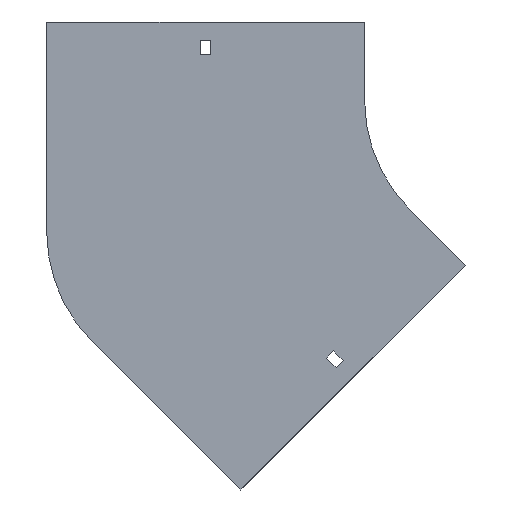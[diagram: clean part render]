
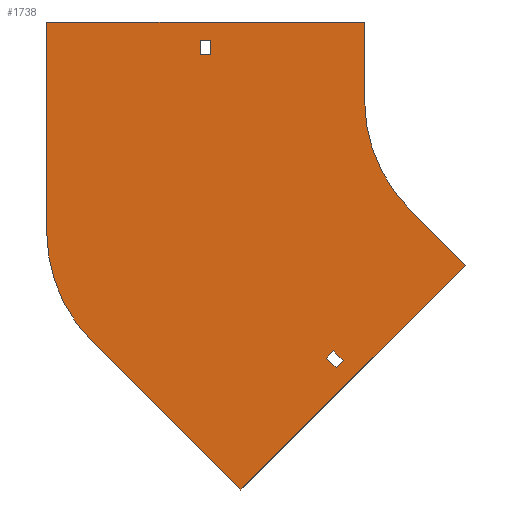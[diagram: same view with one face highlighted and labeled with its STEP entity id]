
A CAD part, front view. The second image highlights one B-rep face of the part: STEP entity #1738.
In plain terms, the highlighted planar face has unit normal (0, -1, 0).
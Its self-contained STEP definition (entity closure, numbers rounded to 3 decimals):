
#2 = VERTEX_POINT ( 'NONE', #57 ) ;
#14 = VERTEX_POINT ( 'NONE', #1880 ) ;
#15 = LINE ( 'NONE', #1769, #1334 ) ;
#18 = DIRECTION ( 'NONE',  ( 0., 0., 1. ) ) ;
#19 = ORIENTED_EDGE ( 'NONE', *, *, #1109, .F. ) ;
#26 = CIRCLE ( 'NONE', #219, 100. ) ;
#57 = CARTESIAN_POINT ( 'NONE',  ( -100., 0., 0. ) ) ;
#61 = LINE ( 'NONE', #657, #739 ) ;
#68 = DIRECTION ( 'NONE',  ( 1., 0., 0. ) ) ;
#88 = VECTOR ( 'NONE', #111, 1000. ) ;
#89 = VERTEX_POINT ( 'NONE', #578 ) ;
#98 = ORIENTED_EDGE ( 'NONE', *, *, #598, .F. ) ;
#111 = DIRECTION ( 'NONE',  ( -0.707, 0., -0.707 ) ) ;
#140 = CARTESIAN_POINT ( 'NONE',  ( -198.75, 0., 29. ) ) ;
#170 = CARTESIAN_POINT ( 'NONE',  ( -124.628, 0., -165.64 ) ) ;
#172 = LINE ( 'NONE', #1364, #1853 ) ;
#197 = LINE ( 'NONE', #643, #1376 ) ;
#214 = CARTESIAN_POINT ( 'NONE',  ( 0., 0., 0. ) ) ;
#219 = AXIS2_PLACEMENT_3D ( 'NONE', #214, #560, #1910 ) ;
#221 = AXIS2_PLACEMENT_3D ( 'NONE', #1169, #1770, #1149 ) ;
#224 = CARTESIAN_POINT ( 'NONE',  ( -205.25, 0., 38. ) ) ;
#226 = CARTESIAN_POINT ( 'NONE',  ( -113.667, 0., -167.408 ) ) ;
#243 = AXIS2_PLACEMENT_3D ( 'NONE', #1894, #546, #1306 ) ;
#259 = CARTESIAN_POINT ( 'NONE',  ( -70.711, 0., -70.711 ) ) ;
#291 = VERTEX_POINT ( 'NONE', #140 ) ;
#301 = VERTEX_POINT ( 'NONE', #226 ) ;
#310 = ORIENTED_EDGE ( 'NONE', *, *, #813, .T. ) ;
#326 = LINE ( 'NONE', #1645, #1434 ) ;
#367 = LINE ( 'NONE', #1271, #399 ) ;
#386 = EDGE_CURVE ( 'NONE', #14, #1166, #1380, .T. ) ;
#399 = VECTOR ( 'NONE', #68, 1000. ) ;
#433 = EDGE_CURVE ( 'NONE', #691, #2, #1401, .T. ) ;
#460 = VERTEX_POINT ( 'NONE', #566 ) ;
#463 = VECTOR ( 'NONE', #713, 1000. ) ;
#520 = DIRECTION ( 'NONE',  ( 0., 0., 1. ) ) ;
#533 = DIRECTION ( 'NONE',  ( -0.707, 0., 0.707 ) ) ;
#542 = DIRECTION ( 'NONE',  ( -0.707, 0., -0.707 ) ) ;
#546 = DIRECTION ( 'NONE',  ( 0., 1., 0. ) ) ;
#554 = EDGE_CURVE ( 'NONE', #1353, #460, #1367, .T. ) ;
#555 = PLANE ( 'NONE',  #221 ) ;
#560 = DIRECTION ( 'NONE',  ( 0., -1., 0. ) ) ;
#566 = CARTESIAN_POINT ( 'NONE',  ( -304., 0., -84.5 ) ) ;
#567 = FACE_BOUND ( 'NONE', #608, .T. ) ;
#578 = CARTESIAN_POINT ( 'NONE',  ( -118.264, 0., -172.004 ) ) ;
#581 = EDGE_LOOP ( 'NONE', ( #764, #1373, #800, #19, #850, #1594, #1020, #1518 ) ) ;
#598 = EDGE_CURVE ( 'NONE', #1062, #89, #15, .T. ) ;
#608 = EDGE_LOOP ( 'NONE', ( #949, #1447, #1123, #310 ) ) ;
#643 = CARTESIAN_POINT ( 'NONE',  ( -70.711, 0., -70.711 ) ) ;
#646 = CARTESIAN_POINT ( 'NONE',  ( -205.25, 0., 29. ) ) ;
#657 = CARTESIAN_POINT ( 'NONE',  ( -205.25, 0., 29. ) ) ;
#659 = DIRECTION ( 'NONE',  ( 0., 0., -1. ) ) ;
#691 = VERTEX_POINT ( 'NONE', #883 ) ;
#693 = LINE ( 'NONE', #1134, #990 ) ;
#713 = DIRECTION ( 'NONE',  ( 0., 0., -1. ) ) ;
#721 = VERTEX_POINT ( 'NONE', #1643 ) ;
#739 = VECTOR ( 'NONE', #1534, 1000. ) ;
#746 = DIRECTION ( 'NONE',  ( 0.707, 0., -0.707 ) ) ;
#764 = ORIENTED_EDGE ( 'NONE', *, *, #1083, .F. ) ;
#798 = LINE ( 'NONE', #967, #867 ) ;
#800 = ORIENTED_EDGE ( 'NONE', *, *, #554, .F. ) ;
#813 = EDGE_CURVE ( 'NONE', #291, #14, #61, .T. ) ;
#850 = ORIENTED_EDGE ( 'NONE', *, *, #1285, .F. ) ;
#866 = VECTOR ( 'NONE', #533, 1000. ) ;
#867 = VECTOR ( 'NONE', #1122, 1000. ) ;
#883 = CARTESIAN_POINT ( 'NONE',  ( -100., 0., 50. ) ) ;
#907 = CARTESIAN_POINT ( 'NONE',  ( -120.031, 0., -161.044 ) ) ;
#943 = DIRECTION ( 'NONE',  ( 0.707, 0., -0.707 ) ) ;
#949 = ORIENTED_EDGE ( 'NONE', *, *, #386, .T. ) ;
#959 = CARTESIAN_POINT ( 'NONE',  ( -179.605, 0., -250.316 ) ) ;
#967 = CARTESIAN_POINT ( 'NONE',  ( -205.25, 0., 38. ) ) ;
#978 = VERTEX_POINT ( 'NONE', #1827 ) ;
#990 = VECTOR ( 'NONE', #542, 1000. ) ;
#1007 = CARTESIAN_POINT ( 'NONE',  ( -124.628, 0., -165.64 ) ) ;
#1020 = ORIENTED_EDGE ( 'NONE', *, *, #1217, .F. ) ;
#1062 = VERTEX_POINT ( 'NONE', #170 ) ;
#1083 = EDGE_CURVE ( 'NONE', #978, #691, #367, .T. ) ;
#1106 = CARTESIAN_POINT ( 'NONE',  ( -179.605, 0., -250.316 ) ) ;
#1109 = EDGE_CURVE ( 'NONE', #1155, #1353, #1422, .T. ) ;
#1111 = LINE ( 'NONE', #1287, #1147 ) ;
#1122 = DIRECTION ( 'NONE',  ( 1., 0., 0. ) ) ;
#1123 = ORIENTED_EDGE ( 'NONE', *, *, #1264, .T. ) ;
#1124 = ORIENTED_EDGE ( 'NONE', *, *, #1307, .F. ) ;
#1134 = CARTESIAN_POINT ( 'NONE',  ( -35.355, 0., -106.066 ) ) ;
#1143 = CARTESIAN_POINT ( 'NONE',  ( -198.75, 0., 38. ) ) ;
#1147 = VECTOR ( 'NONE', #1278, 1000. ) ;
#1149 = DIRECTION ( 'NONE',  ( 0., 0., -1. ) ) ;
#1155 = VERTEX_POINT ( 'NONE', #1106 ) ;
#1166 = VERTEX_POINT ( 'NONE', #224 ) ;
#1169 = CARTESIAN_POINT ( 'NONE',  ( 0., 0., 0. ) ) ;
#1217 = EDGE_CURVE ( 'NONE', #2, #1241, #26, .T. ) ;
#1241 = VERTEX_POINT ( 'NONE', #259 ) ;
#1247 = VERTEX_POINT ( 'NONE', #1143 ) ;
#1264 = EDGE_CURVE ( 'NONE', #1247, #291, #1311, .T. ) ;
#1271 = CARTESIAN_POINT ( 'NONE',  ( -304., 0., 50. ) ) ;
#1275 = DIRECTION ( 'NONE',  ( 0.707, 0., 0.707 ) ) ;
#1278 = DIRECTION ( 'NONE',  ( -0.707, 0., 0.707 ) ) ;
#1285 = EDGE_CURVE ( 'NONE', #721, #1155, #693, .T. ) ;
#1287 = CARTESIAN_POINT ( 'NONE',  ( -120.031, 0., -161.044 ) ) ;
#1306 = DIRECTION ( 'NONE',  ( 0., 0., 1. ) ) ;
#1307 = EDGE_CURVE ( 'NONE', #1916, #1062, #1734, .T. ) ;
#1311 = LINE ( 'NONE', #1930, #463 ) ;
#1334 = VECTOR ( 'NONE', #746, 1000. ) ;
#1342 = ORIENTED_EDGE ( 'NONE', *, *, #1931, .F. ) ;
#1353 = VERTEX_POINT ( 'NONE', #1941 ) ;
#1364 = CARTESIAN_POINT ( 'NONE',  ( -118.264, 0., -172.004 ) ) ;
#1367 = CIRCLE ( 'NONE', #243, 100. ) ;
#1373 = ORIENTED_EDGE ( 'NONE', *, *, #1424, .F. ) ;
#1376 = VECTOR ( 'NONE', #943, 1000. ) ;
#1380 = LINE ( 'NONE', #646, #1892 ) ;
#1401 = LINE ( 'NONE', #1535, #1604 ) ;
#1422 = LINE ( 'NONE', #959, #866 ) ;
#1424 = EDGE_CURVE ( 'NONE', #460, #978, #326, .T. ) ;
#1428 = EDGE_LOOP ( 'NONE', ( #1342, #98, #1124, #1561 ) ) ;
#1434 = VECTOR ( 'NONE', #18, 1000. ) ;
#1447 = ORIENTED_EDGE ( 'NONE', *, *, #1510, .T. ) ;
#1510 = EDGE_CURVE ( 'NONE', #1166, #1247, #798, .T. ) ;
#1518 = ORIENTED_EDGE ( 'NONE', *, *, #433, .F. ) ;
#1534 = DIRECTION ( 'NONE',  ( -1., 0., 0. ) ) ;
#1535 = CARTESIAN_POINT ( 'NONE',  ( -100., 0., 50. ) ) ;
#1561 = ORIENTED_EDGE ( 'NONE', *, *, #1655, .F. ) ;
#1594 = ORIENTED_EDGE ( 'NONE', *, *, #1903, .F. ) ;
#1604 = VECTOR ( 'NONE', #659, 1000. ) ;
#1643 = CARTESIAN_POINT ( 'NONE',  ( -35.355, 0., -106.066 ) ) ;
#1645 = CARTESIAN_POINT ( 'NONE',  ( -304., 0., -84.5 ) ) ;
#1655 = EDGE_CURVE ( 'NONE', #301, #1916, #1111, .T. ) ;
#1734 = LINE ( 'NONE', #1007, #88 ) ;
#1738 = ADVANCED_FACE ( 'NONE', ( #567, #1906, #1927 ), #555, .T. ) ;
#1769 = CARTESIAN_POINT ( 'NONE',  ( -124.628, 0., -165.64 ) ) ;
#1770 = DIRECTION ( 'NONE',  ( 0., -1., 0. ) ) ;
#1827 = CARTESIAN_POINT ( 'NONE',  ( -304., 0., 50. ) ) ;
#1853 = VECTOR ( 'NONE', #1275, 1000. ) ;
#1880 = CARTESIAN_POINT ( 'NONE',  ( -205.25, 0., 29. ) ) ;
#1892 = VECTOR ( 'NONE', #520, 1000. ) ;
#1894 = CARTESIAN_POINT ( 'NONE',  ( -204., 0., -84.5 ) ) ;
#1903 = EDGE_CURVE ( 'NONE', #1241, #721, #197, .T. ) ;
#1906 = FACE_OUTER_BOUND ( 'NONE', #581, .T. ) ;
#1910 = DIRECTION ( 'NONE',  ( 0., 0., -1. ) ) ;
#1916 = VERTEX_POINT ( 'NONE', #907 ) ;
#1927 = FACE_BOUND ( 'NONE', #1428, .T. ) ;
#1930 = CARTESIAN_POINT ( 'NONE',  ( -198.75, 0., 29. ) ) ;
#1931 = EDGE_CURVE ( 'NONE', #89, #301, #172, .T. ) ;
#1941 = CARTESIAN_POINT ( 'NONE',  ( -274.711, 0., -155.21 ) ) ;
